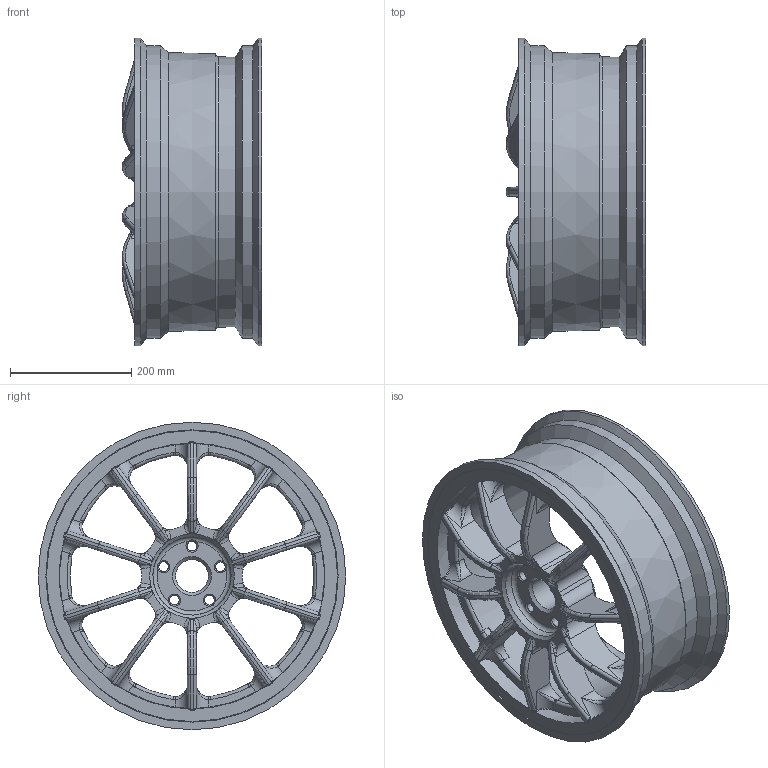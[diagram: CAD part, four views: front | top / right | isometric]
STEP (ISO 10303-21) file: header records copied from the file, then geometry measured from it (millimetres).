
FILE_DESCRIPTION(/* description */ (''),/* implementation_level */ '2;1');
FILE_NAME(/* name */ 'E:\Design\Desain Gambar (Mesin dll)\Inventor Saved\New folder (2)\rims.stp',/* time_stamp */ '2017-05-17T13:21:35+07:00',/* author */ ('adamt'),/* organization */ (''),/* preprocessor_version */ 'ST-DEVELOPER v15.6',/* originating_system */ 'Autodesk Inventor 2015',/* authorisation */ '');
FILE_SCHEMA (('AUTOMOTIVE_DESIGN { 1 0 10303 214 3 1 1 }'));
Length unit declared in the file: millimetre
Products named in the file (1): rims
Bounding box: 229.85 x 508 x 508 mm (x, y, z)
Volume: 11231205.4 mm3; surface area: 1020608.1 mm2
Topology: 1 solids, 1 shells, 528 faces, 1420 edges, 853 vertices
Faces by surface type: cylinder 204, bspline 160, plane 86, torus 62, cone 16
Full cylindrical faces by diameter (mm): 16 x5, 54 x1, 129.225 x1, 402.564 x1, 480.814 x1, 482.814 x3, 508 x2
Entity records: 21771 total; most frequent: CARTESIAN_POINT 8804, ORIENTED_EDGE 2720, DIRECTION 2518, EDGE_CURVE 1360, AXIS2_PLACEMENT_3D 1104, VERTEX_POINT 845, EDGE_LOOP 571, FACE_OUTER_BOUND 528
